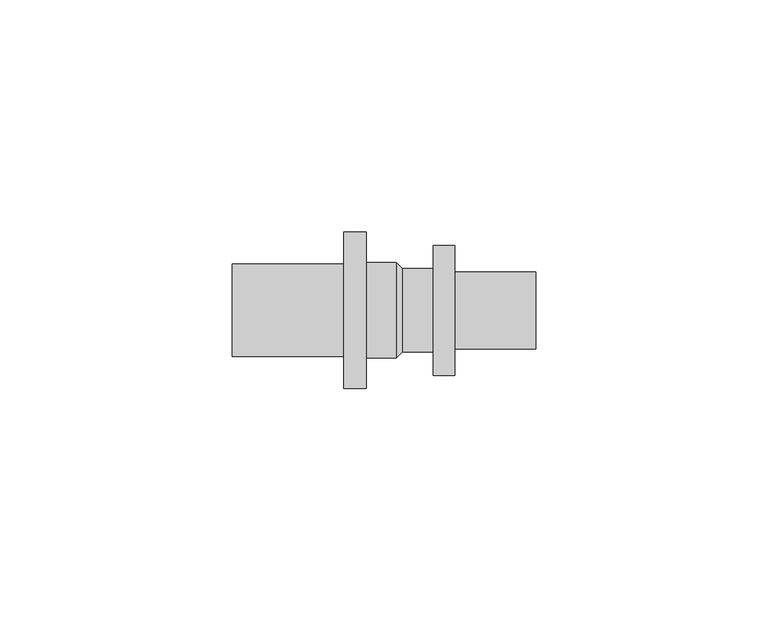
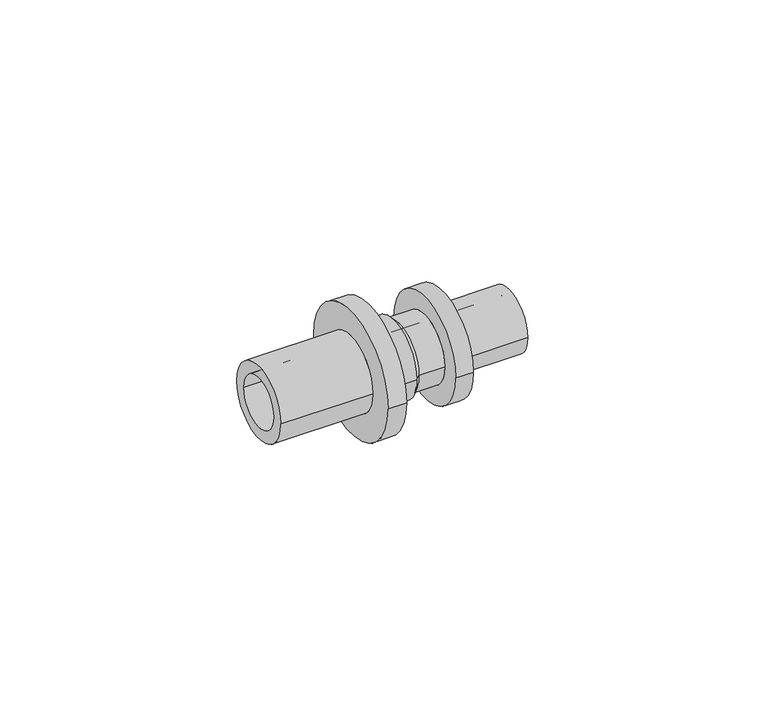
"""IFC4 building model written with IfcOpenShell, lengths in millimetres: pipe fitting geometry, RAUTITAN_Transition_PX : RTI PX Tr DE."""

from ifc_helpers import new_model, si_unit, frame, origin, place, context, project, spatial, polyline, circle_curve, source, transform, mapped, element, save
from ifc_brep_helpers import plane_surface, cylinder_surface, revolved_surface, advanced_brep


def pipe_fitting_377b98a1(model_context):
    return source(origin(), model_context, "Body", "AdvancedBrep", [
        advanced_brep(
        [(-35.95, 6.75, 0.0), (-35.95, -6.75, 0.0), (-0.575, -6.75, 0.0), (-0.575, 6.75, 0.0), (-0.625, 10.25, 0.0), (-0.625, -10.25, 0.0), (-7.15, -10.25, 0.0), (-7.15, 10.25, 0.0), (0.625, 9.0, 0.0), (0.625, -9.0, 0.0), (7.35, 9.0, 0.0), (7.35, -9.0, 0.0), (11.95, 14.0, 0.0), (11.95, -14.0, 0.0), (7.35, -14.0, 0.0), (7.35, 14.0, 0.0), (29.35, 8.3, 0.0), (29.35, -8.3, 0.0), (11.95, -8.3, 0.0), (11.95, 8.3, 0.0), (0.575, 5.6, 0.0), (0.575, -5.6, 0.0), (29.35, -5.6, 0.0), (29.35, 5.6, 0.0), (-7.15, 16.85, 0.0), (-7.15, -16.85, 0.0), (-11.95, 9.95, 0.0), (-11.95, -9.95, 0.0), (-35.95, -9.95, 0.0), (-35.95, 9.95, 0.0), (-11.95, -16.85, 0.0), (-11.95, 16.85, 0.0)],
        [
            (0, 1, circle_curve(frame((-35.95, 0.0, 0.0), z_axis=(-1.0, 0.0, 0.0), x_axis=(0.0, -1.0, 0.0)), 6.75)),
            (1, 2),
            (2, 3, circle_curve(frame((-0.575, 0.0, 0.0), z_axis=(1.0, 0.0, 0.0), x_axis=(0.0, -1.0, 0.0)), 6.75)),
            (3, 0),
            (4, 5, circle_curve(frame((-0.625, 0.0, 0.0), z_axis=(-1.0, 0.0, 0.0), x_axis=(0.0, -1.0, 0.0)), 10.25)),
            (5, 6),
            (6, 7, circle_curve(frame((-7.15, 0.0, 0.0), z_axis=(1.0, 0.0, 0.0), x_axis=(0.0, -1.0, 0.0)), 10.25)),
            (7, 4),
            (8, 9, circle_curve(frame((0.625, 0.0, 0.0), z_axis=(-1.0, 0.0, 0.0), x_axis=(0.0, -1.0, 0.0)), 9.0)),
            (9, 5),
            (4, 8),
            (10, 11, circle_curve(frame((7.35, 0.0, 0.0), z_axis=(-1.0, 0.0, 0.0), x_axis=(0.0, -1.0, 0.0)), 9.0)),
            (11, 9),
            (8, 10),
            (12, 13, circle_curve(frame((11.95, 0.0, 0.0), z_axis=(-1.0, 0.0, 0.0), x_axis=(0.0, -1.0, 0.0)), 14.0)),
            (13, 14),
            (14, 15, circle_curve(frame((7.35, 0.0, 0.0), z_axis=(1.0, 0.0, 0.0), x_axis=(0.0, -1.0, 0.0)), 14.0)),
            (15, 12),
            (16, 17, circle_curve(frame((29.35, 0.0, 0.0), z_axis=(-1.0, 0.0, 0.0), x_axis=(0.0, -1.0, 0.0)), 8.3)),
            (17, 18),
            (18, 19, circle_curve(frame((11.95, 0.0, 0.0), z_axis=(1.0, 0.0, 0.0), x_axis=(0.0, -1.0, 0.0)), 8.3)),
            (19, 16),
            (20, 21, circle_curve(frame((0.575, 0.0, 0.0), z_axis=(-1.0, 0.0, 0.0), x_axis=(0.0, -1.0, 0.0)), 5.6)),
            (21, 22),
            (22, 23, circle_curve(frame((29.35, 0.0, 0.0), z_axis=(1.0, 0.0, 0.0), x_axis=(0.0, -1.0, 0.0)), 5.6)),
            (23, 20),
            (2, 21),
            (20, 3),
            (1, 0, circle_curve(frame((-35.95, 0.0, 0.0), z_axis=(-1.0, 0.0, 0.0), x_axis=(0.0, 1.0, 0.0)), 6.75)),
            (3, 2, circle_curve(frame((-0.575, 0.0, 0.0), z_axis=(1.0, 0.0, 0.0), x_axis=(0.0, 1.0, 0.0)), 6.75)),
            (24, 25, circle_curve(frame((-7.15, 0.0, 0.0), z_axis=(1.0, 0.0, 0.0), x_axis=(0.0, 1.0, 0.0)), 16.85)),
            (25, 24, circle_curve(frame((-7.15, 0.0, 0.0), z_axis=(1.0, 0.0, 0.0), x_axis=(0.0, -1.0, 0.0)), 16.85)),
            (6, 7, circle_curve(frame((-7.15, 0.0, 0.0), z_axis=(-1.0, 0.0, 0.0), x_axis=(0.0, 1.0, 0.0)), 10.25)),
            (5, 4, circle_curve(frame((-0.625, 0.0, 0.0), z_axis=(-1.0, 0.0, 0.0), x_axis=(0.0, 1.0, 0.0)), 10.25)),
            (9, 8, circle_curve(frame((0.625, 0.0, 0.0), z_axis=(-1.0, 0.0, 0.0), x_axis=(0.0, 1.0, 0.0)), 9.0)),
            (11, 10, circle_curve(frame((7.35, 0.0, 0.0), z_axis=(-1.0, 0.0, 0.0), x_axis=(0.0, 1.0, 0.0)), 9.0)),
            (14, 15, circle_curve(frame((7.35, 0.0, 0.0), z_axis=(-1.0, 0.0, 0.0), x_axis=(0.0, 1.0, 0.0)), 14.0)),
            (13, 12, circle_curve(frame((11.95, 0.0, 0.0), z_axis=(-1.0, 0.0, 0.0), x_axis=(0.0, 1.0, 0.0)), 14.0)),
            (18, 19, circle_curve(frame((11.95, 0.0, 0.0), z_axis=(-1.0, 0.0, 0.0), x_axis=(0.0, 1.0, 0.0)), 8.3)),
            (17, 16, circle_curve(frame((29.35, 0.0, 0.0), z_axis=(-1.0, 0.0, 0.0), x_axis=(0.0, 1.0, 0.0)), 8.3)),
            (22, 23, circle_curve(frame((29.35, 0.0, 0.0), z_axis=(-1.0, 0.0, 0.0), x_axis=(0.0, 1.0, 0.0)), 5.6)),
            (21, 20, circle_curve(frame((0.575, 0.0, 0.0), z_axis=(-1.0, 0.0, 0.0), x_axis=(0.0, 1.0, 0.0)), 5.6)),
            (26, 27, circle_curve(frame((-11.95, 0.0, 0.0), z_axis=(-1.0, 0.0, 0.0), x_axis=(0.0, -1.0, 0.0)), 9.95)),
            (27, 28),
            (28, 29, circle_curve(frame((-35.95, 0.0, 0.0), z_axis=(1.0, 0.0, 0.0), x_axis=(0.0, -1.0, 0.0)), 9.95)),
            (29, 26),
            (25, 30),
            (30, 31, circle_curve(frame((-11.95, 0.0, 0.0), z_axis=(1.0, 0.0, 0.0), x_axis=(0.0, -1.0, 0.0)), 16.85)),
            (31, 24),
            (28, 29, circle_curve(frame((-35.95, 0.0, 0.0), z_axis=(-1.0, 0.0, 0.0), x_axis=(0.0, 1.0, 0.0)), 9.95)),
            (27, 26, circle_curve(frame((-11.95, 0.0, 0.0), z_axis=(-1.0, 0.0, 0.0), x_axis=(0.0, 1.0, 0.0)), 9.95)),
            (30, 31, circle_curve(frame((-11.95, 0.0, 0.0), z_axis=(-1.0, 0.0, 0.0), x_axis=(0.0, 1.0, 0.0)), 16.85)),
        ],
        [
            revolved_surface(polyline([(-0.575, -6.75, 0.0), (-35.95, -6.75, 0.0)]), (0.0, 0.0, 0.0), (1.0, 0.0, 0.0)),
            cylinder_surface(frame((0.0, 0.0, 0.0), z_axis=(1.0, 0.0, 0.0), x_axis=(0.0, -1.0, 0.0)), 10.25),
            revolved_surface(polyline([(-0.625, -10.25, 0.0), (0.625, -9.0, 0.0)]), (0.0, 0.0, 0.0), (1.0, 0.0, 0.0)),
            cylinder_surface(frame((0.0, 0.0, 0.0), z_axis=(1.0, 0.0, 0.0), x_axis=(0.0, -1.0, 0.0)), 9.0),
            cylinder_surface(frame((0.0, 0.0, 0.0), z_axis=(1.0, 0.0, 0.0), x_axis=(0.0, -1.0, 0.0)), 14.0),
            cylinder_surface(frame((0.0, 0.0, 0.0), z_axis=(1.0, 0.0, 0.0), x_axis=(0.0, -1.0, 0.0)), 8.3),
            revolved_surface(polyline([(29.35, -5.6, 0.0), (0.575, -5.6, 0.0)]), (0.0, 0.0, 0.0), (1.0, 0.0, 0.0)),
            revolved_surface(polyline([(0.575, -5.6, 0.0), (-0.575, -6.75, 0.0)]), (0.0, 0.0, 0.0), (1.0, 0.0, 0.0)),
            revolved_surface(polyline([(-0.575, 6.75, 0.0), (-35.95, 6.75, 0.0)]), (0.0, 0.0, 0.0), (1.0, 0.0, 0.0)),
            plane_surface(frame((-7.15, 0.0, 0.0), z_axis=(1.0, 0.0, 0.0), x_axis=(0.0, 1.0, 0.0))),
            cylinder_surface(frame((0.0, 0.0, 0.0), z_axis=(1.0, 0.0, 0.0), x_axis=(0.0, 1.0, 0.0)), 10.25),
            revolved_surface(polyline([(-0.625, 10.25, 0.0), (0.625, 9.0, 0.0)]), (0.0, 0.0, 0.0), (1.0, 0.0, 0.0)),
            cylinder_surface(frame((0.0, 0.0, 0.0), z_axis=(1.0, 0.0, 0.0), x_axis=(0.0, 1.0, 0.0)), 9.0),
            plane_surface(frame((7.35, 0.0, 0.0), z_axis=(-1.0, 0.0, 0.0), x_axis=(0.0, 1.0, 0.0))),
            cylinder_surface(frame((0.0, 0.0, 0.0), z_axis=(1.0, 0.0, 0.0), x_axis=(0.0, 1.0, 0.0)), 14.0),
            plane_surface(frame((11.95, 0.0, 0.0), z_axis=(1.0, 0.0, 0.0), x_axis=(0.0, 1.0, 0.0))),
            cylinder_surface(frame((0.0, 0.0, 0.0), z_axis=(1.0, 0.0, 0.0), x_axis=(0.0, 1.0, 0.0)), 8.3),
            plane_surface(frame((29.35, 0.0, 0.0), z_axis=(1.0, 0.0, 0.0), x_axis=(0.0, 1.0, 0.0))),
            revolved_surface(polyline([(29.35, 5.6, 0.0), (0.575, 5.6, 0.0)]), (0.0, 0.0, 0.0), (1.0, 0.0, 0.0)),
            revolved_surface(polyline([(0.575, 5.6, 0.0), (-0.575, 6.75, 0.0)]), (0.0, 0.0, 0.0), (1.0, 0.0, 0.0)),
            cylinder_surface(frame((0.0, 0.0, 0.0), z_axis=(1.0, 0.0, 0.0), x_axis=(0.0, -1.0, 0.0)), 9.95),
            cylinder_surface(frame((0.0, 0.0, 0.0), z_axis=(1.0, 0.0, 0.0), x_axis=(0.0, -1.0, 0.0)), 16.85),
            plane_surface(frame((-35.95, 0.0, 0.0), z_axis=(-1.0, 0.0, 0.0), x_axis=(0.0, 1.0, 0.0))),
            cylinder_surface(frame((0.0, 0.0, 0.0), z_axis=(1.0, 0.0, 0.0), x_axis=(0.0, 1.0, 0.0)), 9.95),
            plane_surface(frame((-11.95, 0.0, 0.0), z_axis=(-1.0, 0.0, 0.0), x_axis=(0.0, 1.0, 0.0))),
            cylinder_surface(frame((0.0, 0.0, 0.0), z_axis=(1.0, 0.0, 0.0), x_axis=(0.0, 1.0, 0.0)), 16.85),
        ],
        [
            (0, [[1, 2, 3, 4]]),
            (1, [[5, 6, 7, 8]]),
            (2, [[9, 10, -5, 11]]),
            (3, [[12, 13, -9, 14]]),
            (4, [[15, 16, 17, 18]]),
            (5, [[19, 20, 21, 22]]),
            (6, [[23, 24, 25, 26]]),
            (7, [[-3, 27, -23, 28]]),
            (8, [[29, -4, 30, -2]]),
            (9, [[31, 32], [33, -7]]),
            (10, [[34, -8, -33, -6]]),
            (11, [[35, -11, -34, -10]]),
            (12, [[36, -14, -35, -13]]),
            (13, [[37, -17], [-36, -12]]),
            (14, [[38, -18, -37, -16]]),
            (15, [[-38, -15], [39, -21]]),
            (16, [[40, -22, -39, -20]]),
            (17, [[-40, -19], [41, -25]]),
            (18, [[42, -26, -41, -24]]),
            (19, [[-30, -28, -42, -27]]),
            (20, [[43, 44, 45, 46]]),
            (21, [[-32, 47, 48, 49]]),
            (22, [[50, -45], [-29, -1]]),
            (23, [[51, -46, -50, -44]]),
            (24, [[52, -48], [-51, -43]]),
            (25, [[-31, -49, -52, -47]]),
        ],
    ),
    ])


if __name__ == "__main__":
    model = new_model("IFC4")
    model_context = context("Model", 3, world=origin())
    ifc_project = project(units=[si_unit("LENGTHUNIT", "METRE", prefix="MILLI")], contexts=[model_context])
    site = spatial("IfcSite", under=ifc_project)
    building = spatial("IfcBuilding", under=site)
    placement = place(None, origin())
    pipe_fitting_shape = pipe_fitting_377b98a1(model_context)
    element("IfcPipeFitting", 1, ObjectType="RAUTITAN_Transition_PX : RTI PX Tr DE", at=placement, inside=building, context=model_context, shape_type="MappedRepresentation", body=[
        mapped(pipe_fitting_shape, transform((0.0, 0.0, 0.0), x_axis=(1.0, 0.0, 0.0), y_axis=(0.0, 1.0, 0.0), z_axis=(0.0, 0.0, 1.0))),
    ])
    save(model, "model.ifc")
